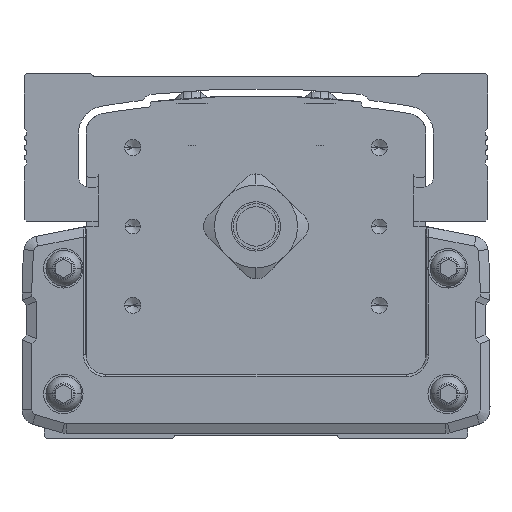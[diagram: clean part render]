
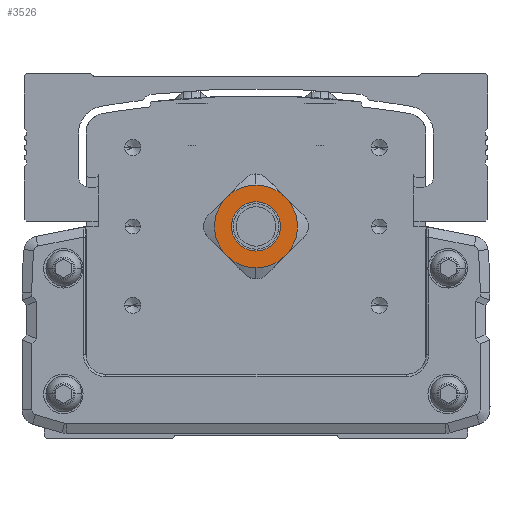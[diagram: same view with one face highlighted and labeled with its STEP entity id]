
A CAD part, front view. The second image highlights one B-rep face of the part: STEP entity #3526.
In plain terms, the highlighted planar face has unit normal (0, -1, 0).
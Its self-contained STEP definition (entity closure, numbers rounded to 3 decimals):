
#3526=ADVANCED_FACE('',(#8060,#8061),#8062,.F.);
#8060=FACE_OUTER_BOUND('',#14280,.T.);
#8061=FACE_BOUND('',#14281,.T.);
#8062=PLANE('',#14282);
#14280=EDGE_LOOP('',(#25342,#25343,#25344,#25345,#25346,#25347));
#14281=EDGE_LOOP('',(#25348,#25349));
#14282=AXIS2_PLACEMENT_3D('',#25350,#25351,#25352);
#25342=ORIENTED_EDGE('',*,*,#39301,.T.);
#25343=ORIENTED_EDGE('',*,*,#38853,.T.);
#25344=ORIENTED_EDGE('',*,*,#36512,.T.);
#25345=ORIENTED_EDGE('',*,*,#36353,.T.);
#25346=ORIENTED_EDGE('',*,*,#36051,.T.);
#25347=ORIENTED_EDGE('',*,*,#36875,.T.);
#25348=ORIENTED_EDGE('',*,*,#39302,.F.);
#25349=ORIENTED_EDGE('',*,*,#39303,.F.);
#25350=CARTESIAN_POINT('',(0.,-111.468,0.127));
#25351=DIRECTION('',(0.,1.0,0.));
#25352=DIRECTION('',(0.,0.0,1.0));
#36051=EDGE_CURVE('',#43048,#43046,#43049,.T.);
#36353=EDGE_CURVE('',#43581,#43048,#43582,.T.);
#36512=EDGE_CURVE('',#43849,#43581,#43855,.T.);
#36875=EDGE_CURVE('',#43046,#44477,#44479,.T.);
#38853=EDGE_CURVE('',#47692,#43849,#47693,.T.);
#39301=EDGE_CURVE('',#44477,#47692,#48347,.T.);
#39302=EDGE_CURVE('',#48348,#48349,#48350,.T.);
#39303=EDGE_CURVE('',#48349,#48348,#48351,.T.);
#43046=VERTEX_POINT('',#53181);
#43048=VERTEX_POINT('',#53184);
#43049=CIRCLE('',#53185,8.413);
#43581=VERTEX_POINT('',#54031);
#43582=CIRCLE('',#54032,8.413);
#43849=VERTEX_POINT('',#54478);
#43855=CIRCLE('',#54513,8.413);
#44477=VERTEX_POINT('',#55433);
#44479=CIRCLE('',#55446,8.413);
#47692=VERTEX_POINT('',#60149);
#47693=CIRCLE('',#60150,8.413);
#48347=CIRCLE('',#61249,8.413);
#48348=VERTEX_POINT('',#61250);
#48349=VERTEX_POINT('',#61251);
#48350=CIRCLE('',#61252,4.625);
#48351=CIRCLE('',#61253,4.625);
#53181=CARTESIAN_POINT('',(0.,-111.468,-8.413));
#53184=CARTESIAN_POINT('',(-5.949,-111.468,-5.949));
#53185=AXIS2_PLACEMENT_3D('',#67425,#67426,#67427);
#54031=CARTESIAN_POINT('',(-5.949,-111.468,5.949));
#54032=AXIS2_PLACEMENT_3D('',#67767,#67768,#67769);
#54478=CARTESIAN_POINT('',(0.,-111.468,8.412));
#54513=AXIS2_PLACEMENT_3D('',#67967,#67968,#67969);
#55433=CARTESIAN_POINT('',(5.949,-111.468,-5.949));
#55446=AXIS2_PLACEMENT_3D('',#68404,#68405,#68406);
#60149=CARTESIAN_POINT('',(5.949,-111.468,5.949));
#60150=AXIS2_PLACEMENT_3D('',#70833,#70834,#70835);
#61249=AXIS2_PLACEMENT_3D('',#71314,#71315,#71316);
#61250=CARTESIAN_POINT('',(0.,-111.468,4.625));
#61251=CARTESIAN_POINT('',(0.,-111.468,-4.625));
#61252=AXIS2_PLACEMENT_3D('',#71317,#71318,#71319);
#61253=AXIS2_PLACEMENT_3D('',#71320,#71321,#71322);
#67425=CARTESIAN_POINT('',(0.,-111.468,0.));
#67426=DIRECTION('',(0.,-1.0,0.));
#67427=DIRECTION('',(0.,0.0,1.0));
#67767=CARTESIAN_POINT('',(0.,-111.468,0.));
#67768=DIRECTION('',(0.,-1.0,0.));
#67769=DIRECTION('',(0.,0.0,1.0));
#67967=CARTESIAN_POINT('',(0.,-111.468,0.));
#67968=DIRECTION('',(0.,-1.0,0.));
#67969=DIRECTION('',(0.,0.0,1.0));
#68404=CARTESIAN_POINT('',(0.,-111.468,0.));
#68405=DIRECTION('',(0.,-1.0,0.));
#68406=DIRECTION('',(0.,0.0,1.0));
#70833=CARTESIAN_POINT('',(0.,-111.468,0.));
#70834=DIRECTION('',(0.,-1.0,0.));
#70835=DIRECTION('',(0.,0.0,1.0));
#71314=CARTESIAN_POINT('',(0.,-111.468,0.));
#71315=DIRECTION('',(0.,-1.0,0.));
#71316=DIRECTION('',(0.,0.0,1.0));
#71317=CARTESIAN_POINT('',(0.,-111.468,0.));
#71318=DIRECTION('',(0.,-1.0,0.));
#71319=DIRECTION('',(0.,0.0,-1.0));
#71320=CARTESIAN_POINT('',(0.,-111.468,0.));
#71321=DIRECTION('',(0.,-1.0,0.));
#71322=DIRECTION('',(0.,0.0,-1.0));
